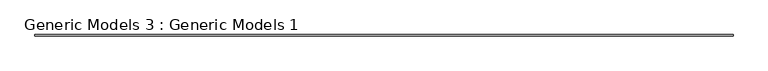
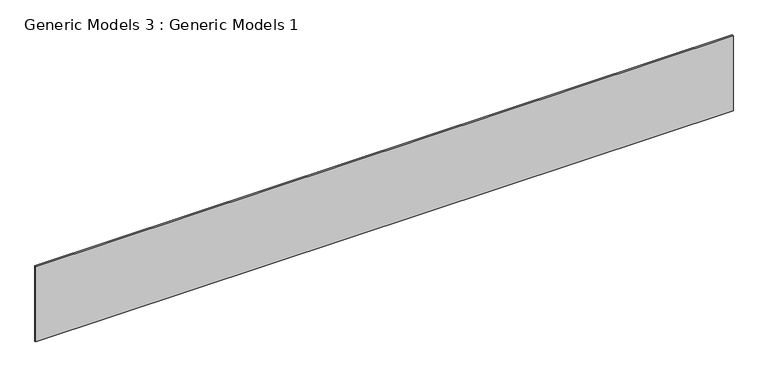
"""IFC4 building model written with IfcOpenShell, lengths in millimetres: proxy geometry, Generic Models 3 : Generic Models 1."""

import ifcopenshell
import ifcopenshell.guid

model = None  # the IFC model being written
_history = None  # IfcOwnerHistory: only IFC2X3 demands one
_inside = {}  # id of a spatial element -> (the spatial element, [elements in it])
_under = {}  # id of a project, library or spatial element -> (it, [spatial elements below it])
_declared = {}  # id of a project -> (the project, [libraries it declares])
_typed = {}  # id of a type object -> (the type object, [elements of that type])
_made_of = {}  # id of a material, layer set ... -> (it, [elements and type objects made of it])


def new_model(schema):
    """Start an empty IFC model of exactly this schema.

    Asked for "IFC4X3", IfcOpenShell would pick the latest addendum, in which some entities
    have other attributes; the version numbers below select the first issue.
    IFC2X3 requires an IfcOwnerHistory on every rooted entity: one is made here for all.
    """
    global model, _history
    if schema == "IFC4X3":
        model = ifcopenshell.file(schema_version=(4, 3, 0, 0))
    else:
        model = ifcopenshell.file(schema=schema)
    _inside.clear()
    _under.clear()
    _declared.clear()
    _typed.clear()
    _made_of.clear()
    _history = None
    if model.schema == "IFC2X3":
        org = make("IfcOrganization", Name="unknown")
        user = make(
            "IfcPersonAndOrganization",
            ThePerson=make("IfcPerson", FamilyName="unknown"),
            TheOrganization=org,
        )
        app = make(
            "IfcApplication",
            ApplicationDeveloper=org,
            Version="unknown",
            ApplicationFullName="unknown",
            ApplicationIdentifier="unknown",
        )
        _history = make(
            "IfcOwnerHistory",
            OwningUser=user,
            OwningApplication=app,
            ChangeAction="ADDED",
            CreationDate=0,
        )
    return model


def make(cls, **values):
    """One entity of the class cls with the attributes given. An attribute that is None is left unset."""
    return model.create_entity(
        cls, **{name: value for name, value in values.items() if value is not None}
    )


def rooted(cls, **values):
    """An entity with a GlobalId (a new one), such as an element, a storey or a relation."""
    return make(cls, GlobalId=ifcopenshell.guid.new(), OwnerHistory=_history, **values)


def si_unit(unit_type, name, prefix=None):
    """IfcSIUnit, for example si_unit("LENGTHUNIT", "METRE", prefix="MILLI")."""
    return make("IfcSIUnit", UnitType=unit_type, Prefix=prefix, Name=name)


def assignment(units):
    """IfcUnitAssignment: the units of a project."""
    return None if units is None else make("IfcUnitAssignment", Units=units)


def point(xyz):
    """IfcCartesianPoint."""
    return None if xyz is None else make("IfcCartesianPoint", Coordinates=xyz)


def direction(xyz):
    """IfcDirection."""
    return None if xyz is None else make("IfcDirection", DirectionRatios=xyz)


def frame(location, z_axis=None, x_axis=None):
    """IfcAxis2Placement3D, a coordinate frame: its origin and axes. An axis left out is left unset."""
    return make(
        "IfcAxis2Placement3D",
        Location=point(location),
        Axis=direction(z_axis),
        RefDirection=direction(x_axis),
    )


def origin():
    """The frame at (0, 0, 0) with its axes left unset."""
    return frame((0.0, 0.0, 0.0))


def place(relative_to, where):
    """IfcLocalPlacement: puts the frame where relative to a parent placement (None: the world)."""
    return make(
        "IfcLocalPlacement", PlacementRelTo=relative_to, RelativePlacement=where
    )


def context(
    kind, dimensions, precision=None, world=None, true_north=None, identifier=None
):
    """IfcGeometricRepresentationContext, for example the 3D "Model" context."""
    return make(
        "IfcGeometricRepresentationContext",
        ContextIdentifier=identifier,
        ContextType=kind,
        CoordinateSpaceDimension=dimensions,
        Precision=precision,
        WorldCoordinateSystem=world,
        TrueNorth=true_north,
    )


def project(units=None, contexts=None):
    """IfcProject with its units and contexts."""
    return rooted(
        "IfcProject",
        Name="project",
        RepresentationContexts=contexts,
        UnitsInContext=assignment(units),
    )


def spatial(cls, under=None, at=None, **own):
    """A site, building, storey or space (cls), placed at a placement, below another one or the project."""
    s = rooted(cls, ObjectPlacement=at, **own)
    if under is not None:
        _under.setdefault(under.id(), (under, []))[1].append(s)
    return s


def polyline(points):
    """IfcPolyline through the points."""
    return make("IfcPolyline", Points=[point(p) for p in points])


def outline(outer, holes=None, kind="AREA"):
    """IfcArbitraryClosedProfileDef: a profile drawn as a closed curve; with holes, ...WithVoids."""
    if holes is None:
        return make("IfcArbitraryClosedProfileDef", ProfileType=kind, OuterCurve=outer)
    return make(
        "IfcArbitraryProfileDefWithVoids",
        ProfileType=kind,
        OuterCurve=outer,
        InnerCurves=holes,
    )


def extrude(swept, where, along, depth):
    """IfcExtrudedAreaSolid: the profile swept, set in the frame where, extruded along a direction by depth."""
    return make(
        "IfcExtrudedAreaSolid",
        SweptArea=swept,
        Position=where,
        ExtrudedDirection=direction(along),
        Depth=depth,
    )


def shape(context_of_items, identifier, shape_type, items):
    """IfcShapeRepresentation: the items that make up one representation, for example the "Body"."""
    return make(
        "IfcShapeRepresentation",
        ContextOfItems=context_of_items,
        RepresentationIdentifier=identifier,
        RepresentationType=shape_type,
        Items=items,
    )


def source(mapping_origin, context_of_items, identifier, shape_type, items):
    """IfcRepresentationMap: a shape defined once, which mapped items show again and again."""
    return make(
        "IfcRepresentationMap",
        MappingOrigin=mapping_origin,
        MappedRepresentation=shape(context_of_items, identifier, shape_type, items),
    )


def transform(
    local_origin,
    x_axis=None,
    y_axis=None,
    z_axis=None,
    scale=None,
    scale2=None,
    scale3=None,
    uniform=True,
):
    """IfcCartesianTransformationOperator3D, or its non-uniform kind. x_axis, y_axis, z_axis: its Axis1, 2, 3."""
    if uniform:
        return make(
            "IfcCartesianTransformationOperator3D",
            Axis1=direction(x_axis),
            Axis2=direction(y_axis),
            LocalOrigin=point(local_origin),
            Scale=scale,
            Axis3=direction(z_axis),
        )
    return make(
        "IfcCartesianTransformationOperator3DnonUniform",
        Axis1=direction(x_axis),
        Axis2=direction(y_axis),
        LocalOrigin=point(local_origin),
        Scale=scale,
        Axis3=direction(z_axis),
        Scale2=scale2,
        Scale3=scale3,
    )


def mapped(mapping_source, mapping_target):
    """IfcMappedItem: shows the shape of a source again, moved by a transform."""
    return make(
        "IfcMappedItem", MappingSource=mapping_source, MappingTarget=mapping_target
    )


def made_of(thing, what):
    """Note that an element or type object is made of a material, layer set ...; save() writes the relation."""
    if what is not None:
        _made_of.setdefault(what.id(), (what, []))[1].append(thing)
    return thing


def element(
    cls,
    number,
    at=None,
    inside=None,
    cuts=None,
    type_object=None,
    material=None,
    context=None,
    identifier="Body",
    shape_type=None,
    held_by="IfcProductDefinitionShape",
    body=None,
    shapes=None,
    **own,
):
    """One element of the class cls, such as IfcWall. Its Tag is "e" and its number.

    at: its placement. inside: the storey or other place that contains it. cuts: it is an
    opening in that element (IfcRelVoidsElement). A single representation is given by context,
    identifier, shape_type and body (its items); several are given by shapes. held_by: the class
    of the entity that holds the representations. save() writes the other relations.
    """
    e = rooted(cls, Tag="e%d" % number, ObjectPlacement=at, **own)
    if body is not None:
        shapes = [shape(context, identifier, shape_type, body)]
    if shapes is not None:
        e.Representation = make(held_by, Representations=shapes)
    if inside is not None:
        _inside.setdefault(inside.id(), (inside, []))[1].append(e)
    if cuts is not None:
        rooted(
            "IfcRelVoidsElement", RelatingBuildingElement=cuts, RelatedOpeningElement=e
        )
    if type_object is not None:
        _typed.setdefault(type_object.id(), (type_object, []))[1].append(e)
    return made_of(e, material)


def aggregate(whole, parts):
    """IfcRelAggregates: a whole, such as a stair, and the parts it consists of."""
    return rooted("IfcRelAggregates", RelatingObject=whole, RelatedObjects=parts)


def save(model, path):
    """Write the relations noted so far, then the file.

    IfcRelAggregates (storeys below a building ...), IfcRelContainedInSpatialStructure (elements
    in a storey), IfcRelDefinesByType, IfcRelAssociatesMaterial and IfcRelDeclares: one each for
    every whole, place, type object, material and project.
    """
    for whole, parts in _under.values():
        aggregate(whole, parts)
    for where, things in _inside.values():
        rooted(
            "IfcRelContainedInSpatialStructure",
            RelatedElements=things,
            RelatingStructure=where,
        )
    for kind, things in _typed.values():
        rooted("IfcRelDefinesByType", RelatedObjects=things, RelatingType=kind)
    for what, things in _made_of.values():
        rooted("IfcRelAssociatesMaterial", RelatedObjects=things, RelatingMaterial=what)
    for by, libraries in _declared.values():
        rooted("IfcRelDeclares", RelatingContext=by, RelatedDefinitions=libraries)
    model.write(path)


def generic_models_3_generic_models_1_04b73181(model_context):
    return source(origin(), model_context, "Body", "SweptSolid", [
        extrude(outline(polyline([(-9102.850493, -6264.1489595), (-12049.235253, -6264.1489595), (-12049.235253, -6257.7989595), (-9102.850493, -6257.7989595), (-9102.850493, -6264.1489595)])), frame((0.0, 0.0, 33528.0), z_axis=(0.0, 0.0, 1.0), x_axis=(1.0, 0.0, 0.0)), (0.0, 0.0, 1.0), 335.8798437),
    ])


if __name__ == "__main__":
    model = new_model("IFC4")
    model_context = context("Model", 3, world=origin())
    ifc_project = project(units=[si_unit("LENGTHUNIT", "METRE", prefix="MILLI")], contexts=[model_context])
    site = spatial("IfcSite", under=ifc_project)
    building = spatial("IfcBuilding", under=site)
    placement = place(None, origin())
    generic_models_3_generic_models_1_shape = generic_models_3_generic_models_1_04b73181(model_context)
    element("IfcBuildingElementProxy", 1, Name="Generic Models 3 : Generic Models 1", ObjectType="Generic Models 3 : Generic Models 1", at=placement, inside=building, context=model_context, shape_type="MappedRepresentation", body=[
        mapped(generic_models_3_generic_models_1_shape, transform((0.0, 0.0, 0.0), x_axis=(1.0, 0.0, 0.0), y_axis=(0.0, 1.0, 0.0), z_axis=(0.0, 0.0, 1.0))),
    ])
    save(model, "model.ifc")
